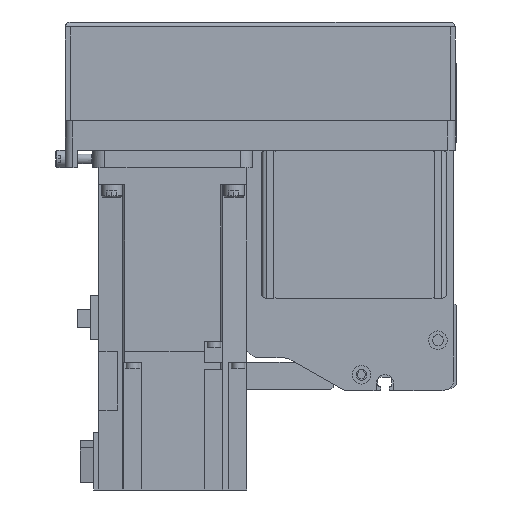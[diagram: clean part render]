
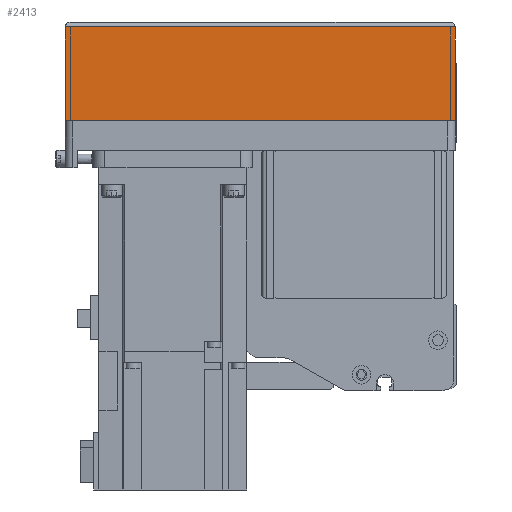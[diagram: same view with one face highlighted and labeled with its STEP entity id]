
A CAD part, left-side view. The second image highlights one B-rep face of the part: STEP entity #2413.
In plain terms, the highlighted planar face has unit normal (-1, 0, 0) as drawn and (0, 1, 0) by its records, which use the part's own axes.
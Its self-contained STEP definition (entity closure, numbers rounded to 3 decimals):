
#2413 = ADVANCED_FACE( '', ( #5321 ), #5322, .T. );
#5321 = FACE_OUTER_BOUND( '', #8701, .T. );
#5322 = PLANE( '', #8702 );
#8701 = EDGE_LOOP( '', ( #15492, #15493, #15494, #15495 ) );
#8702 = AXIS2_PLACEMENT_3D( '', #15496, #15497, #15498 );
#15492 = ORIENTED_EDGE( '', *, *, #20601, .F. );
#15493 = ORIENTED_EDGE( '', *, *, #21842, .F. );
#15494 = ORIENTED_EDGE( '', *, *, #19739, .T. );
#15495 = ORIENTED_EDGE( '', *, *, #19994, .T. );
#15496 = CARTESIAN_POINT( '', ( -158., 39., -50. ) );
#15497 = DIRECTION( '', ( 0., 1., 0. ) );
#15498 = DIRECTION( '', ( 0., 0., 1. ) );
#19739 = EDGE_CURVE( '', #23734, #23550, #23735, .T. );
#19994 = EDGE_CURVE( '', #23550, #23109, #24171, .T. );
#20601 = EDGE_CURVE( '', #25163, #23109, #25164, .T. );
#21842 = EDGE_CURVE( '', #23734, #25163, #26954, .T. );
#23109 = VERTEX_POINT( '', #28541 );
#23550 = VERTEX_POINT( '', #29149 );
#23734 = VERTEX_POINT( '', #29400 );
#23735 = LINE( '', #29401, #29402 );
#24171 = LINE( '', #30005, #30006 );
#25163 = VERTEX_POINT( '', #31536 );
#25164 = LINE( '', #31537, #31538 );
#26954 = LINE( '', #34449, #34450 );
#28541 = CARTESIAN_POINT( '', ( 0., 39., -12.1 ) );
#29149 = CARTESIAN_POINT( '', ( -158., 39., -12.1 ) );
#29400 = CARTESIAN_POINT( '', ( -158., 39., -50. ) );
#29401 = CARTESIAN_POINT( '', ( -158., 39., -50. ) );
#29402 = VECTOR( '', #36563, 1000. );
#30005 = CARTESIAN_POINT( '', ( -158., 39., -12.1 ) );
#30006 = VECTOR( '', #36892, 1000. );
#31536 = CARTESIAN_POINT( '', ( 0., 39., -50. ) );
#31537 = CARTESIAN_POINT( '', ( 0., 39., -50. ) );
#31538 = VECTOR( '', #37653, 1000. );
#34449 = CARTESIAN_POINT( '', ( -158., 39., -50. ) );
#34450 = VECTOR( '', #39095, 1000. );
#36563 = DIRECTION( '', ( 0., 0., 1. ) );
#36892 = DIRECTION( '', ( 1., 0., 0. ) );
#37653 = DIRECTION( '', ( 0., 0., 1. ) );
#39095 = DIRECTION( '', ( 1., 0., 0. ) );
